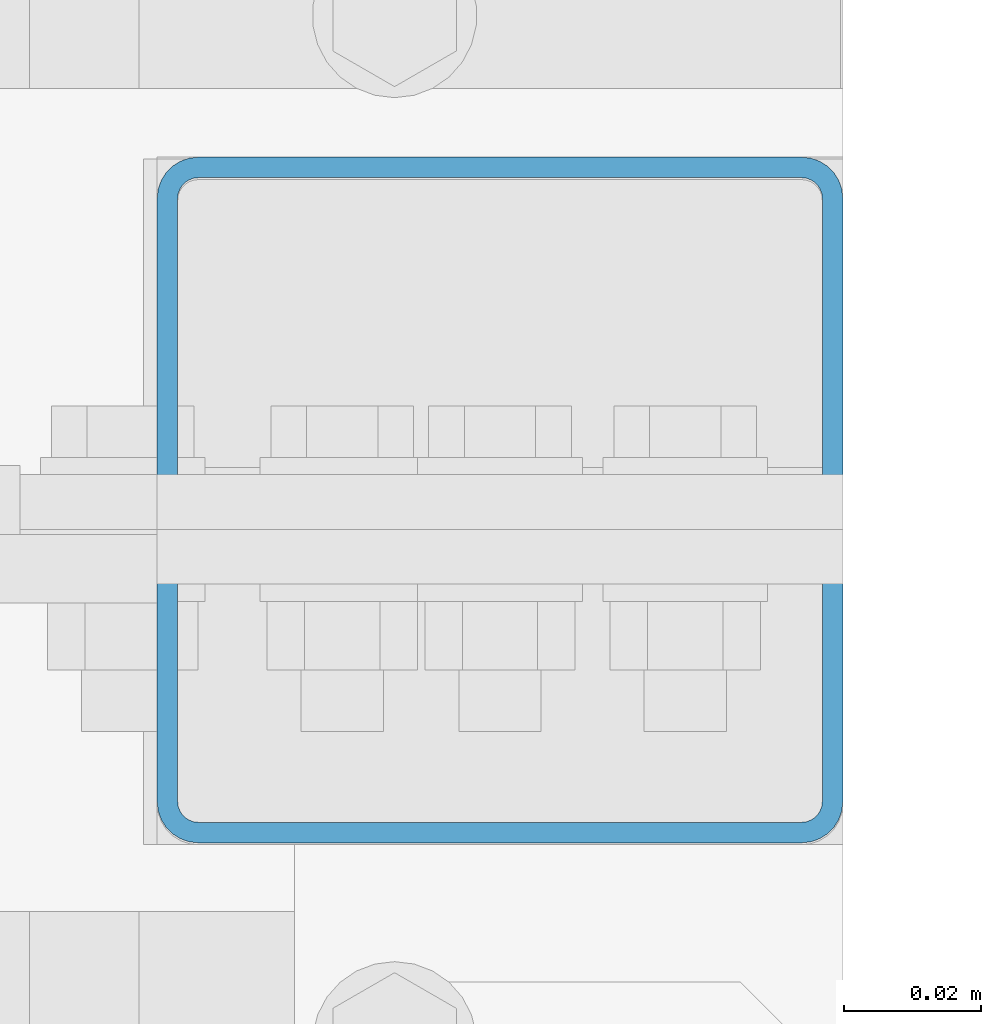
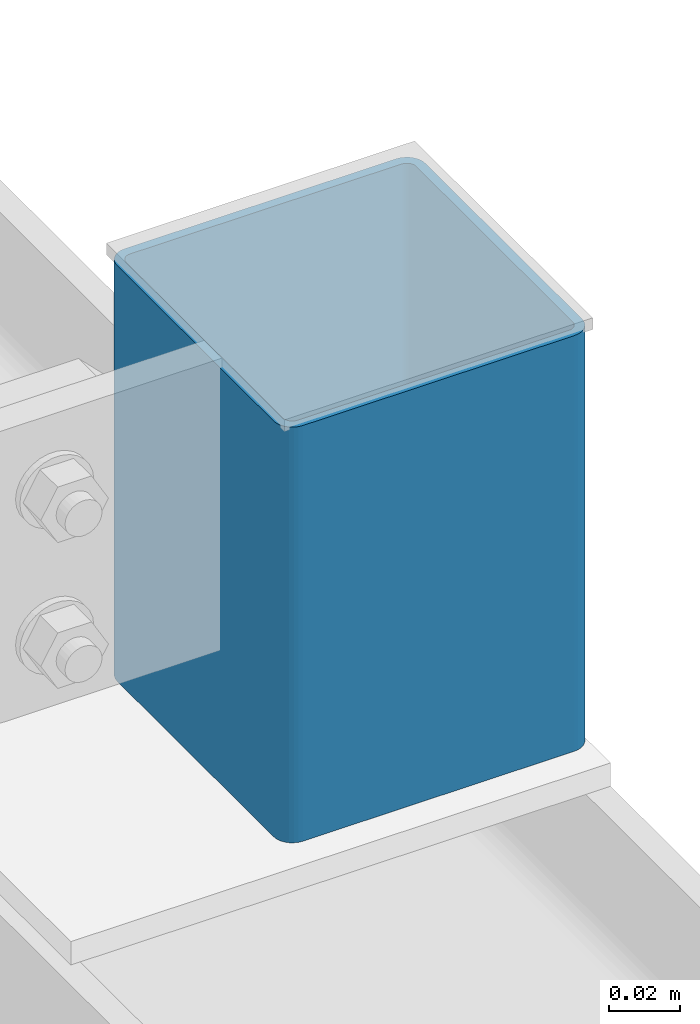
# One storey, part 86 of 271: 1 beam, 1 element without a shape of its own.
"""IFC2X3 building model written with IfcOpenShell, lengths in millimetres."""

from ifc_helpers import new_model, si_unit, frame, origin_with_axes, origin_2d_with_axis, place, context, subcontext, project, spatial, hollow_rectangle, extrude, clip, halfspace, material, type_object, element, aggregate, save


model = new_model("IFC2X3")

# Units and contexts
model_context = context("Model", 3, precision=1e-05, world=origin_with_axes())
body_context = subcontext(model_context, "Body", "Model", "MODEL_VIEW")
ifc_project = project(units=[si_unit("LENGTHUNIT", "METRE", prefix="MILLI"), si_unit("AREAUNIT", "SQUARE_METRE"), si_unit("VOLUMEUNIT", "CUBIC_METRE"), si_unit("MASSUNIT", "GRAM", prefix="KILO"), si_unit("TIMEUNIT", "SECOND"), si_unit("PLANEANGLEUNIT", "RADIAN"), si_unit("SOLIDANGLEUNIT", "STERADIAN"), si_unit("THERMODYNAMICTEMPERATUREUNIT", "DEGREE_CELSIUS"), si_unit("LUMINOUSINTENSITYUNIT", "LUMEN")], contexts=[model_context])

# Site, building, storey
site_placement = place(None, origin_with_axes())
site = spatial("IfcSite", under=ifc_project, at=site_placement, Name="Undefined", CompositionType="ELEMENT")
building_placement = place(site_placement, origin_with_axes())
building = spatial("IfcBuilding", under=site, at=building_placement, Name="Undefined", CompositionType="ELEMENT")
storey_placement = place(building_placement, origin_with_axes())
storey = spatial("IfcBuildingStorey", under=building, at=storey_placement, Name="Undefined", CompositionType="ELEMENT", Elevation=0.0)

# Assembly, beam
assembly_placement = place(storey_placement, origin_with_axes())
assembly = element("IfcElementAssembly", 1, at=assembly_placement, inside=storey, AssemblyPlace="NOTDEFINED", PredefinedType="RIGID_FRAME")
ifc_material = material(Name="STEEL/S355JR")
beam_type = type_object("IfcBeamType", Name="SHS100*3", PredefinedType="NOTDEFINED")
beam_placement = place(assembly_placement, frame((12658.3756870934, 2799.32498425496, 20204.3499999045), z_axis=(0.0, 1.0, 0.0), x_axis=(0.0, 0.0, -1.0)))
beam = element("IfcBeam", 2, at=beam_placement, type_object=beam_type, material=ifc_material, Name="TĘŻNIK", ObjectType="SHS100*3", context=body_context, shape_type="Clipping", body=[
    clip(extrude(hollow_rectangle(XDim=100.0, YDim=100.0, WallThickness=3.0, InnerFilletRadius=3.0, OuterFilletRadius=6.0, at=origin_2d_with_axis()), frame((146.5, 0.0, 0.0), z_axis=(-1.0, 0.0, 1.38777878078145e-17), x_axis=(0.0, -1.0, 0.0)), (0.0, 0.0, 1.0), 146.5), halfspace(frame((4.0, 0.0, -50.0), z_axis=(1.0, 0.0, 0.0), x_axis=(0.0, -1.0, 0.0)), True)),
])
aggregate(assembly, [beam])

save(model, "model.ifc")
